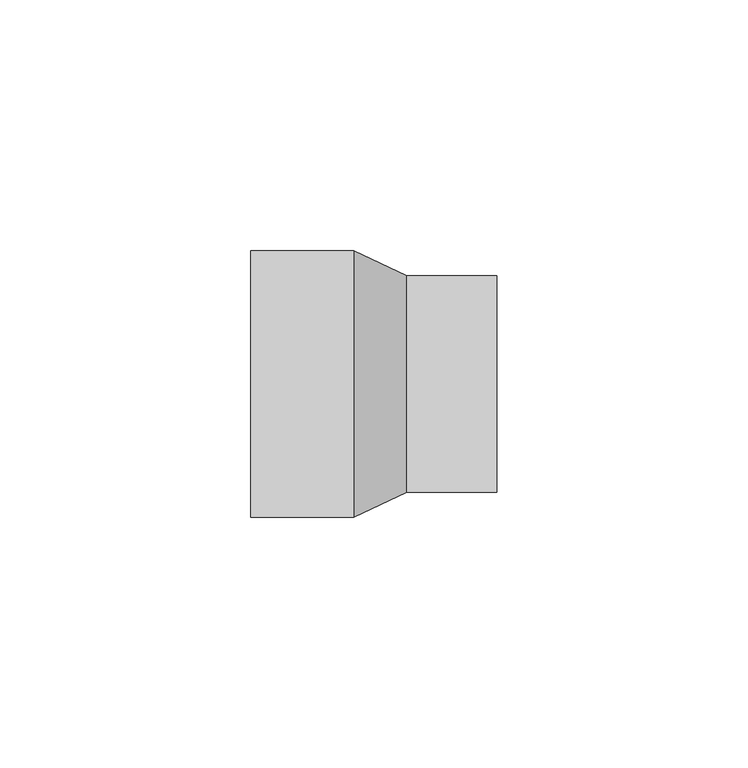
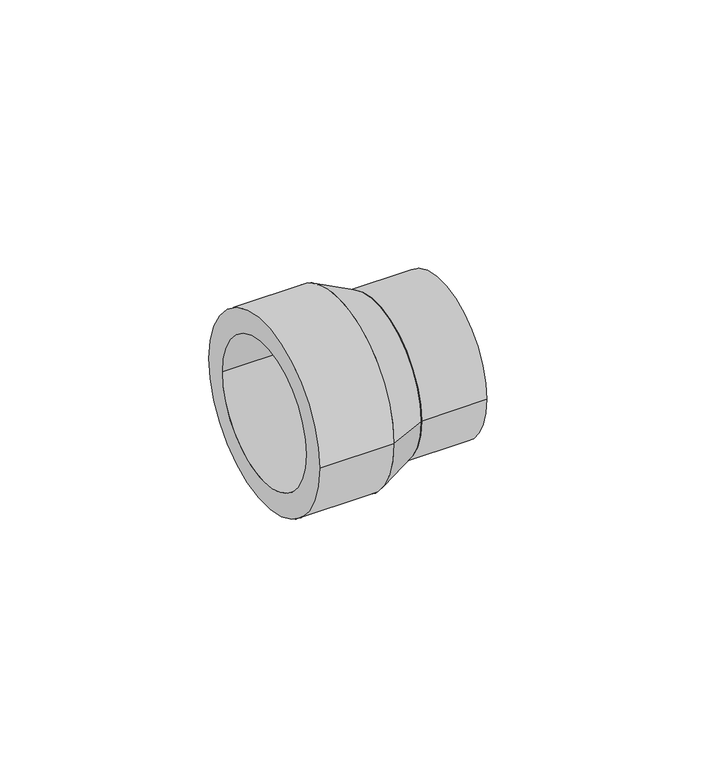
"""IFC4 building model written with IfcOpenShell, lengths in millimetres: pipe fitting geometry, 23_Муфта переходная ВВ : Белый цвет."""

from ifc_helpers import new_model, si_unit, point, frame, origin, origin_2d, place, context, project, spatial, polyline, circle_curve, trimmed, segment, composite_curve, outline, extrude, source, transform, mapped, element, save
from ifc_brep_helpers import plane_surface, revolved_surface, advanced_brep


def pipe_fitting_3659187a(model_context):
    return source(origin(), model_context, "Body", "SolidModel", [
        extrude(outline(composite_curve([segment(trimmed(circle_curve(origin_2d(), 21.6), [point((-21.6, 0.0))], [point((21.6, 0.0))], False, "CARTESIAN"), True, "CONTINUOUS"), segment(trimmed(circle_curve(origin_2d(), 21.6), [point((21.6, 0.0))], [point((-21.6, 0.0))], False, "CARTESIAN"), True, "CONTINUOUS")], self_intersect=False), holes=[composite_curve([segment(trimmed(circle_curve(origin_2d(), 16.0), [point((-16.0, 0.0))], [point((16.0, 0.0))], True, "CARTESIAN"), True, "CONTINUOUS"), segment(trimmed(circle_curve(origin_2d(), 16.0), [point((16.0, 0.0))], [point((-16.0, 0.0))], True, "CARTESIAN"), True, "CONTINUOUS")], self_intersect=False)]), frame((6.5, 0.0, 0.0), z_axis=(1.0, 0.0, 0.0), x_axis=(0.0, 1.0, 0.0)), (0.0, 0.0, 1.0), 18.0),
        extrude(outline(composite_curve([segment(trimmed(circle_curve(origin_2d(), 26.5), [point((-26.5, 0.0))], [point((26.5, 0.0))], False, "CARTESIAN"), True, "CONTINUOUS"), segment(trimmed(circle_curve(origin_2d(), 26.5), [point((26.5, 0.0))], [point((-26.5, 0.0))], False, "CARTESIAN"), True, "CONTINUOUS")], self_intersect=False), holes=[composite_curve([segment(trimmed(circle_curve(origin_2d(), 20.0), [point((-20.0, 0.0))], [point((20.0, 0.0))], True, "CARTESIAN"), True, "CONTINUOUS"), segment(trimmed(circle_curve(origin_2d(), 20.0), [point((20.0, 0.0))], [point((-20.0, 0.0))], True, "CARTESIAN"), True, "CONTINUOUS")], self_intersect=False)]), frame((-24.5, 0.0, 0.0), z_axis=(1.0, 0.0, 0.0), x_axis=(0.0, 1.0, 0.0)), (0.0, 0.0, 1.0), 20.5),
        advanced_brep(
        [(6.5, -21.6, 0.0), (6.5, 21.6, 0.0), (6.5, 16.0, 0.0), (6.5, -16.0, 0.0), (-4.0, -26.5, 0.0), (-4.0, 26.5, 0.0), (-4.0, -20.0, 0.0), (-4.0, 20.0, 0.0)],
        [
            (0, 1, circle_curve(frame((6.5, 0.0, 0.0), z_axis=(1.0, 0.0, 0.0), x_axis=(0.0, -1.0, 0.0)), 21.6)),
            (1, 0, circle_curve(frame((6.5, 0.0, 0.0), z_axis=(1.0, 0.0, 0.0), x_axis=(0.0, 1.0, 0.0)), 21.6)),
            (2, 3, circle_curve(frame((6.5, 0.0, 0.0), z_axis=(-1.0, 0.0, 0.0), x_axis=(0.0, -1.0, 0.0)), 16.0)),
            (3, 2, circle_curve(frame((6.5, 0.0, 0.0), z_axis=(-1.0, 0.0, 0.0), x_axis=(0.0, 1.0, 0.0)), 16.0)),
            (4, 5, circle_curve(frame((-4.0, 0.0, 0.0), z_axis=(-1.0, 0.0, 0.0), x_axis=(0.0, 1.0, 0.0)), 26.5)),
            (5, 4, circle_curve(frame((-4.0, 0.0, 0.0), z_axis=(-1.0, 0.0, 0.0), x_axis=(0.0, -1.0, 0.0)), 26.5)),
            (6, 7, circle_curve(frame((-4.0, 0.0, 0.0), z_axis=(1.0, 0.0, 0.0), x_axis=(0.0, -1.0, 0.0)), 20.0)),
            (7, 6, circle_curve(frame((-4.0, 0.0, 0.0), z_axis=(1.0, 0.0, 0.0), x_axis=(0.0, 1.0, 0.0)), 20.0)),
            (0, 4),
            (5, 1),
            (6, 3),
            (2, 7),
        ],
        [
            plane_surface(frame((6.5, 0.0, 0.0), z_axis=(1.0, 0.0, 0.0), x_axis=(0.0, 0.0, -1.0))),
            plane_surface(frame((-4.0, 0.0, 0.0), z_axis=(-1.0, 0.0, 0.0), x_axis=(0.0, 0.0, -1.0))),
            revolved_surface(polyline([(6.5, -21.600000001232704, 0.0), (-4.0, -26.5, 0.0)]), (52.7857143, 0.0, 0.0), (-1.0, 0.0, 0.0)),
            revolved_surface(polyline([(6.5, 21.600000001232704, 0.0), (-4.0, 26.5, 0.0)]), (52.7857143, 0.0, 0.0), (-1.0, 0.0, 0.0)),
            revolved_surface(polyline([(-4.0, -20.0, 0.0), (6.5, -16.0, 0.0)]), (48.5, 0.0, 0.0), (-1.0, 0.0, 0.0)),
        ],
        [
            (0, [[1, 2], [3, 4]]),
            (1, [[5, 6], [7, 8]]),
            (2, [[-1, 9, -6, 10]]),
            (3, [[-2, -10, -5, -9]]),
            (4, [[11, -3, 12, -7]]),
            (4, [[-11, -8, -12, -4]]),
        ],
    ),
    ])


if __name__ == "__main__":
    model = new_model("IFC4")
    model_context = context("Model", 3, world=origin())
    ifc_project = project(units=[si_unit("LENGTHUNIT", "METRE", prefix="MILLI")], contexts=[model_context])
    site = spatial("IfcSite", under=ifc_project)
    building = spatial("IfcBuilding", under=site)
    placement = place(None, origin())
    pipe_fitting_shape = pipe_fitting_3659187a(model_context)
    element("IfcPipeFitting", 1, ObjectType="23_Муфта переходная ВВ : Белый цвет", at=placement, inside=building, context=model_context, shape_type="MappedRepresentation", body=[
        mapped(pipe_fitting_shape, transform((0.0, 0.0, 0.0), x_axis=(1.0, 0.0, 0.0), y_axis=(0.0, 1.0, 0.0), z_axis=(0.0, 0.0, 1.0))),
    ])
    save(model, "model.ifc")
